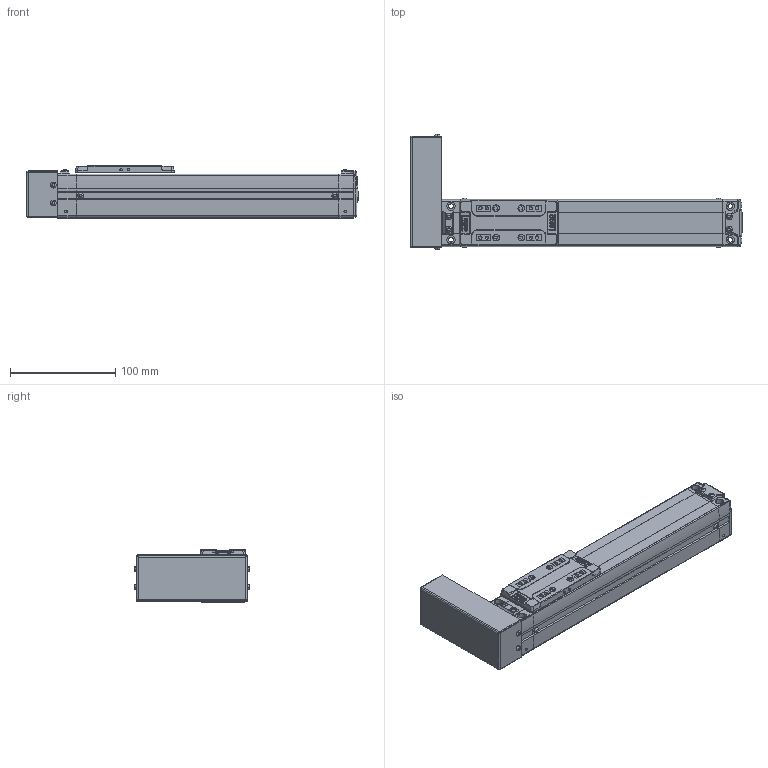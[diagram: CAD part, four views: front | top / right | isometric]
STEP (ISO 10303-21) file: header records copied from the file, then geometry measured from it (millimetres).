
FILE_DESCRIPTION(('STEP AP214'),'1');
FILE_NAME('Z:/Web/3D/SAN45/2013.ver/STP/SAN45-150PL.stp','2013-05-15T00:08:53',(' '),(' '),'Spatial InterOp 3D',' ',' ');
FILE_SCHEMA(('automotive_design'));
Length unit declared in the file: millimetre
Products named in the file (28): BODY-SAN45; REAR-SAN45; RRCV-SAN45; BHCS M3 x 6L; BHCS M3 X 6L; FRONT-SAN45; SHAFT; RN8 x 0.75; SSFX-SAN45; SLIDE-SAN45; SLCV-IM45; FHCS M3 x 6L; BTCV-SAN45
Bounding box: 316.15 x 110.13 x 50 mm (x, y, z)
Volume: 655596.8 mm3; surface area: 118914.4 mm2
Topology: 28 solids, 28 shells, 1692 faces, 4397 edges, 2843 vertices
Faces by surface type: plane 887, cylinder 589, cone 118, bspline 40, sphere 40, torus 12, extrusion 6
Entity records: 69805 total; most frequent: CARTESIAN_POINT 13320, DIRECTION 9144, ORIENTED_EDGE 8710, EDGE_CURVE 4355, AXIS2_PLACEMENT_3D 3216, VERTEX_POINT 2843, VECTOR 2712, LINE 2706
